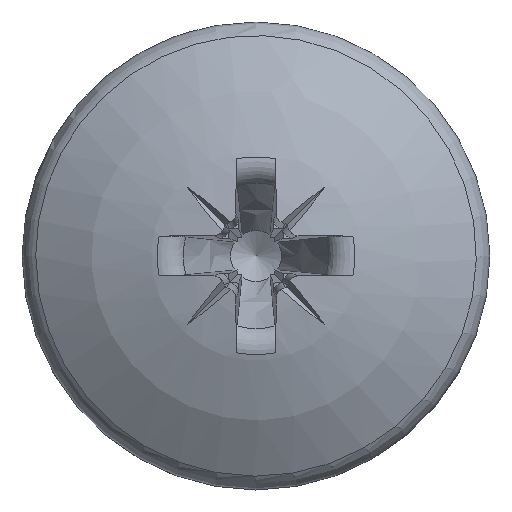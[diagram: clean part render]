
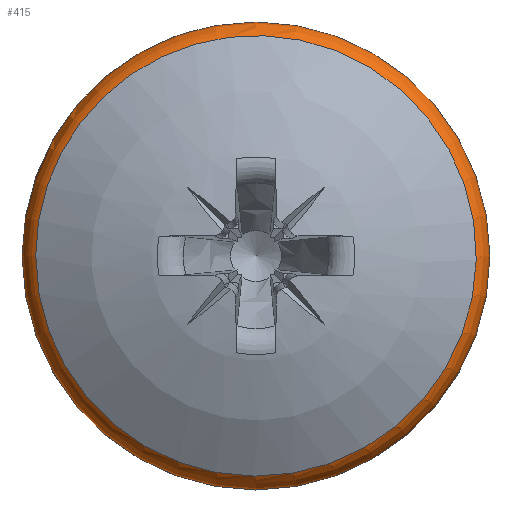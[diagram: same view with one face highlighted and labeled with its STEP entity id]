
A CAD part, top view. The second image highlights one B-rep face of the part: STEP entity #415.
In plain terms, the highlighted toroidal (fillet/blend) face has major radius 5.33 mm and minor radius 0.82 mm.
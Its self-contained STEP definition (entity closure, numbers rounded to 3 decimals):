
#321=TOROIDAL_SURFACE('',#1855,5.33,0.82);
#337=FACE_BOUND('',#639,.T.);
#338=FACE_BOUND('',#640,.T.);
#415=ADVANCED_FACE('',(#337,#338),#321,.T.);
#639=EDGE_LOOP('',(#1065));
#640=EDGE_LOOP('',(#1066));
#686=CIRCLE('',#1740,5.792);
#711=CIRCLE('',#1770,6.15);
#1065=ORIENTED_EDGE('',*,*,#1449,.F.);
#1066=ORIENTED_EDGE('',*,*,#1408,.F.);
#1253=VERTEX_POINT('',#3025);
#1292=VERTEX_POINT('',#3296);
#1408=EDGE_CURVE('',#1253,#1253,#686,.T.);
#1449=EDGE_CURVE('',#1292,#1292,#711,.T.);
#1740=AXIS2_PLACEMENT_3D('',#3024,#1873,#1874);
#1770=AXIS2_PLACEMENT_3D('',#3295,#1934,#1935);
#1855=AXIS2_PLACEMENT_3D('',#3727,#2164,#2165);
#1873=DIRECTION('',(0.,0.,1.));
#1874=DIRECTION('',(-1.,0.,0.));
#1934=DIRECTION('',(0.,0.,-1.));
#1935=DIRECTION('',(-1.,0.,0.));
#2164=DIRECTION('',(0.,0.,-1.));
#2165=DIRECTION('',(-1.,0.,0.));
#3024=CARTESIAN_POINT('',(0.,0.,3.315));
#3025=CARTESIAN_POINT('',(-5.792,0.,3.315));
#3295=CARTESIAN_POINT('',(0.,0.,2.638));
#3296=CARTESIAN_POINT('',(-6.15,0.,2.638));
#3727=CARTESIAN_POINT('',(0.,0.,2.638));
